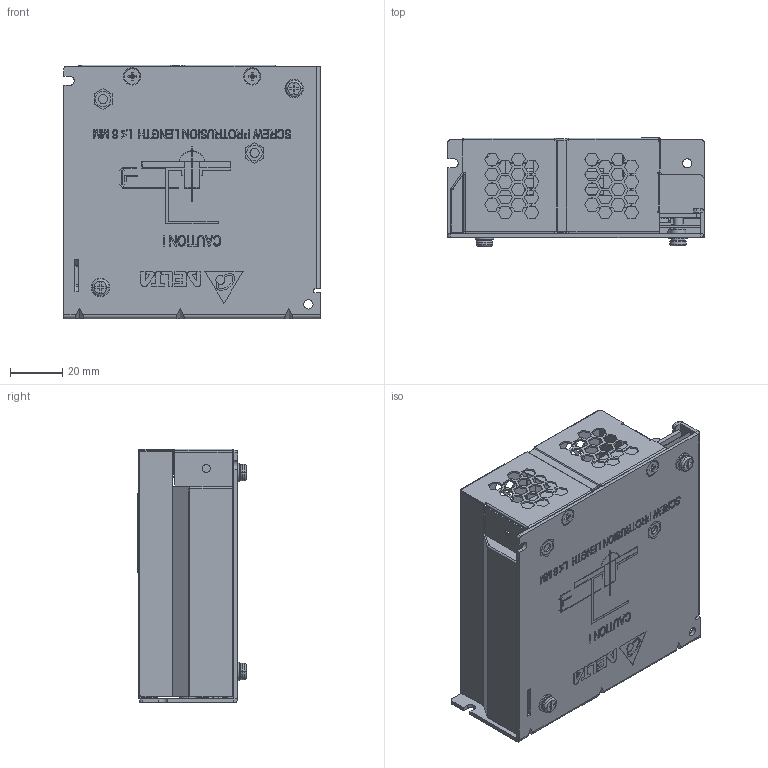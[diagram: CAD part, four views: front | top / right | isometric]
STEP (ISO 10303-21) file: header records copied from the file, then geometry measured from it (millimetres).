
FILE_DESCRIPTION((''),'2;1');
FILE_NAME('PMH-24V50WCAA_ASM','2017-06-21T',('Yuthaphichai.Chan'),(''),'PRO/ENGINEER BY PARAMETRIC TECHNOLOGY CORPORATION, 2010180','PRO/ENGINEER BY PARAMETRIC TECHNOLOGY CORPORATION, 2010180','');
FILE_SCHEMA(('CONFIG_CONTROL_DESIGN','SHAPE_APPEARANCE_LAYERS_GROUPS'));
Products named in the file (24): 331609650101_3; 331609650101_A_STUD_1; 331609650101_ASM_3_ASM; 331605710101_3; INSULATOR-CHASSIS_50; 326203870304_1; 3268095800_1; 295_PWB_9; 307049747W_A_BODY_1; 307049747W_A_SCREW_1; 307049747W_ASM_1_ASM; EE_VR510_A_BODY_1; EE_VR510_A_LEG_1; EE_VR510_ASM_35_ASM; EE_LED350_2301151506_1; ASSY_PWB_PMH-24V50WCAA_ASM_85_ASM; 3103301000_1; 3100001000_1; 3460405500_1; 3100000400_1; 3202315200_1; SYSTEMSCREW_2; PMH-24V50WCAA_ASM_114_ASM; PMH-24V50WCAA_ASM
Assembly tree (35 placements, depth 5):
  PMH-24V50WCAA_ASM
    PMH-24V50WCAA_ASM_114_ASM
      331609650101_ASM_3_ASM
        331609650101_3
        331609650101_A_STUD_1  x2
      331605710101_3
      INSULATOR-CHASSIS_50
      326203870304_1
      3268095800_1
      ASSY_PWB_PMH-24V50WCAA_ASM_85_ASM
        295_PWB_9
        307049747W_ASM_1_ASM
          307049747W_A_BODY_1
          307049747W_A_SCREW_1  x5
        EE_VR510_ASM_35_ASM
          EE_VR510_A_BODY_1
          EE_VR510_A_LEG_1  x3
        EE_LED350_2301151506_1
      3103301000_1  x2
      3100001000_1
      3460405500_1
      3100000400_1  x4
      3202315200_1
      SYSTEMSCREW_2  x2
Bounding box: 98 x 41.35 x 97.05 mm (x, y, z)
Volume: 55241.2 mm3; surface area: 111003.3 mm2
Topology: 30 solids, 30 shells, 5122 faces, 13778 edges, 8658 vertices
Faces by surface type: plane 3633, extrusion 573, cylinder 549, bspline 217, cone 114, torus 36
Entity records: 173157 total; most frequent: CARTESIAN_POINT 31738, ORIENTED_EDGE 23608, DIRECTION 19626, EDGE_CURVE 11804, PRESENTATION_STYLE_ASSIGNMENT 10935, STYLED_ITEM 10867, CURVE_STYLE 10854, VECTOR 10074
